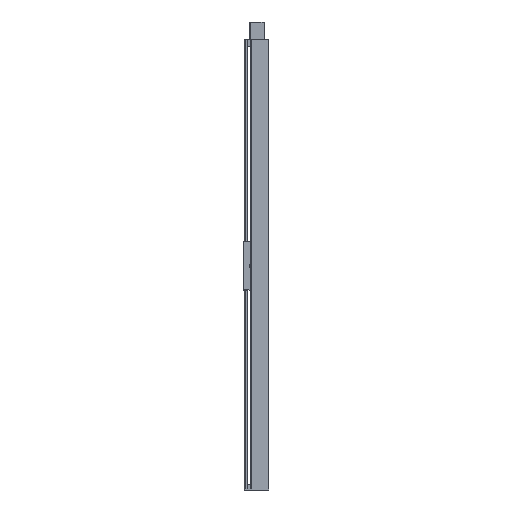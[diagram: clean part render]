
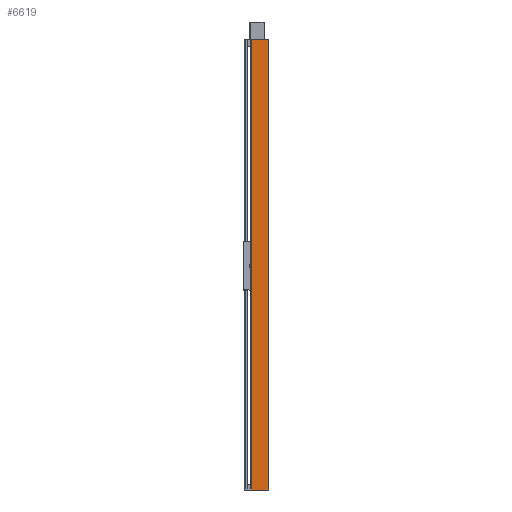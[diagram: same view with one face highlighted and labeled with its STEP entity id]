
A CAD part, left-side view. The second image highlights one B-rep face of the part: STEP entity #6619.
In plain terms, the highlighted planar face has unit normal (-1, 0, 0).
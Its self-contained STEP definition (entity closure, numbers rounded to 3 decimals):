
#1937=CARTESIAN_POINT('',(-68.,65.5,1695.0));
#1938=VERTEX_POINT('',#1937);
#1946=CARTESIAN_POINT('',(-68.0,0.5,1695.0));
#1947=VERTEX_POINT('',#1946);
#1948=CARTESIAN_POINT('',(-68.0,0.5,1695.0));
#1949=DIRECTION('',(0.0,1.0,0.0));
#1950=VECTOR('',#1949,65.0);
#1951=LINE('',#1948,#1950);
#1952=EDGE_CURVE('',#1947,#1938,#1951,.T.);
#5826=CARTESIAN_POINT('',(-68.0,0.5,-20.0));
#5827=VERTEX_POINT('',#5826);
#5836=CARTESIAN_POINT('',(-68.,65.5,-20.0));
#5837=VERTEX_POINT('',#5836);
#5838=CARTESIAN_POINT('',(-68.,65.5,-20.0));
#5839=DIRECTION('',(0.0,-1.0,0.0));
#5840=VECTOR('',#5839,65.0);
#5841=LINE('',#5838,#5840);
#5842=EDGE_CURVE('',#5837,#5827,#5841,.T.);
#6568=CARTESIAN_POINT('',(-68.0,0.5,-20.0));
#6569=DIRECTION('',(0.0,0.0,1.0));
#6570=VECTOR('',#6569,1715.0);
#6571=LINE('',#6568,#6570);
#6572=EDGE_CURVE('',#5827,#1947,#6571,.T.);
#6603=CARTESIAN_POINT('',(-68.0,0.5,0.0));
#6604=DIRECTION('',(-1.0,0.0,0.0));
#6605=DIRECTION('',(0.0,0.0,1.0));
#6606=AXIS2_PLACEMENT_3D('',#6603,#6604,#6605);
#6607=PLANE('',#6606);
#6608=CARTESIAN_POINT('',(-68.,65.5,-20.0));
#6609=DIRECTION('',(0.0,0.0,1.0));
#6610=VECTOR('',#6609,1715.0);
#6611=LINE('',#6608,#6610);
#6612=EDGE_CURVE('',#5837,#1938,#6611,.T.);
#6613=ORIENTED_EDGE('',*,*,#6612,.F.);
#6614=ORIENTED_EDGE('',*,*,#5842,.T.);
#6615=ORIENTED_EDGE('',*,*,#6572,.T.);
#6616=ORIENTED_EDGE('',*,*,#1952,.T.);
#6617=EDGE_LOOP('',(#6613,#6614,#6615,#6616));
#6618=FACE_OUTER_BOUND('',#6617,.T.);
#6619=ADVANCED_FACE('',(#6618),#6607,.T.);
